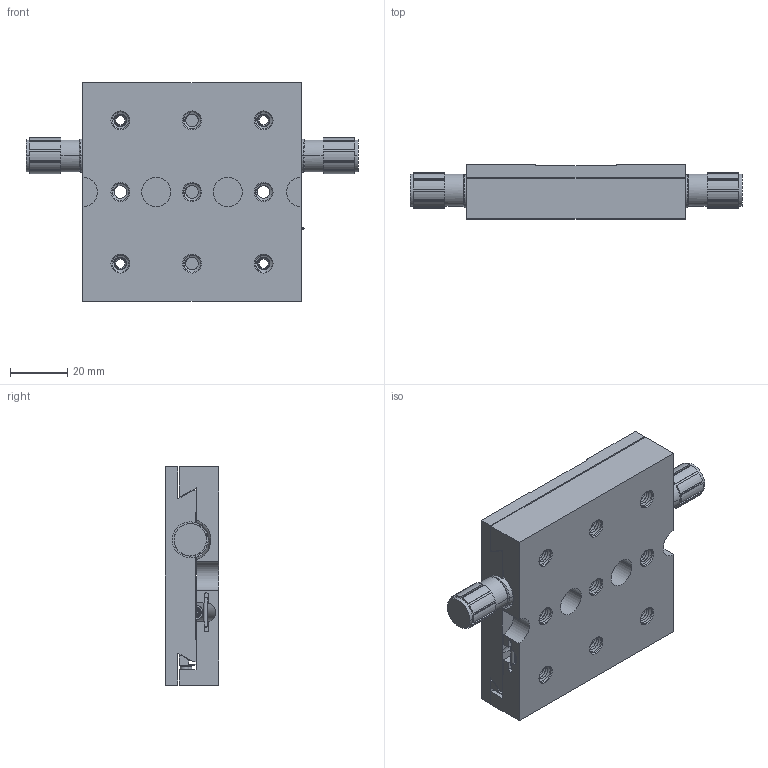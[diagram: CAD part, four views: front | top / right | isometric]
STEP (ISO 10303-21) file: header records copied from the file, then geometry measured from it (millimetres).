
FILE_DESCRIPTION((''),'2;1');
FILE_NAME('Z-TSX-M1_ASM','2020-10-28T',('Administrator'),(''),'CREO PARAMETRIC BY PTC INC, 2015290','CREO PARAMETRIC BY PTC INC, 2015290','');
FILE_SCHEMA(('CONFIG_CONTROL_DESIGN'));
Products named in the file (10): Z-TSX-M1_A1; Z-TSX-M1_A2; Z-TSX-M1_A3; Z-TSX-M1_A4; Z-TSX-M1_A5; AXLE_1_5X10_5; SPRING_5X42; M3X5_HS; M4X5_HS_2; Z-TSX-M1_ASM
Assembly tree (15 placements, depth 2):
  Z-TSX-M1_ASM
    Z-TSX-M1_A1
    Z-TSX-M1_A2
    Z-TSX-M1_A3
    Z-TSX-M1_A4  x2
    Z-TSX-M1_A5  x2
    AXLE_1_5X10_5  x2
    SPRING_5X42
    M3X5_HS  x4
    M4X5_HS_2
Bounding box: 115.9 x 18.8 x 76.2 mm (x, y, z)
Volume: 90945.6 mm3; surface area: 45249.3 mm2
Topology: 15 solids, 15 shells, 1168 faces, 3155 edges, 2033 vertices
Faces by surface type: cylinder 564, plane 276, bspline 244, cone 80, torus 4
Entity records: 78441 total; most frequent: CARTESIAN_POINT 54715, ORIENTED_EDGE 5734, DIRECTION 3538, EDGE_CURVE 2867, VERTEX_POINT 1849, B_SPLINE_CURVE_WITH_KNOTS 1300, VECTOR 1234, LINE 1234
